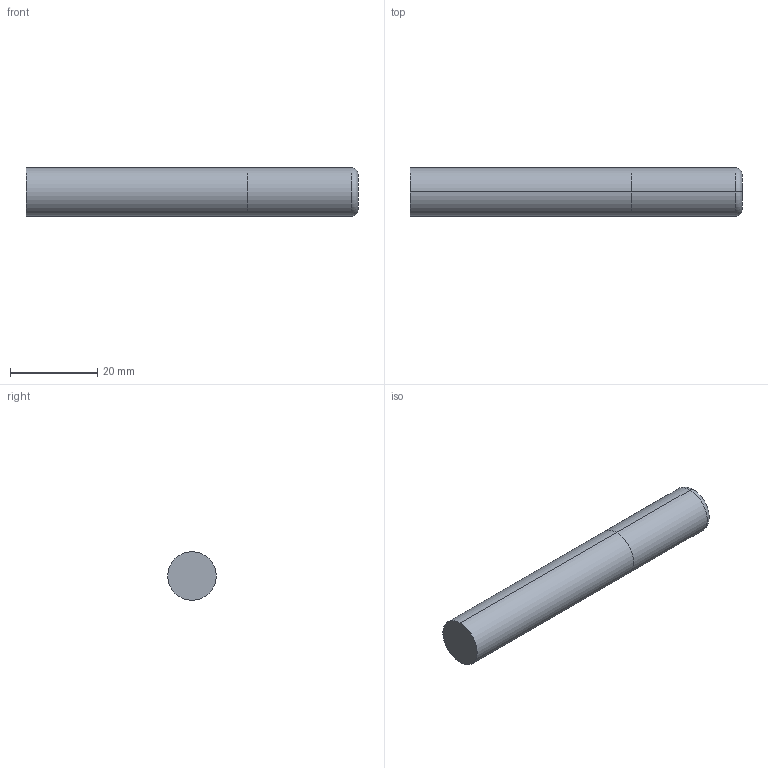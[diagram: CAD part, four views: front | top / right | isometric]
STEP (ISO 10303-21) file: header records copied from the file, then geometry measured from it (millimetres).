
FILE_DESCRIPTION (( 'STEP AP214' ), '1' );
FILE_NAME ('SSI50437-060.STEP', '2025-05-23T15:17:13', ( '' ), ( '' ), 'SwSTEP 2.0', 'SolidWorks 2023', '' );
FILE_SCHEMA (( 'AUTOMOTIVE_DESIGN' ));
Length unit declared in the file: inch
Products named in the file (3): SSI5 Imperial SHANK ONLY_SSI50437-060; SSI5 Imperial LOC ONLY_SSI50437-060; SSI50437-060
Assembly tree (2 placements, depth 2):
  SSI50437-060
    SSI5 Imperial LOC ONLY_SSI50437-060
    SSI5 Imperial SHANK ONLY_SSI50437-060
Bounding box: 76.2 x 11.11 x 11.11 mm (x, y, z)
Volume: 7374.1 mm3; surface area: 3024.3 mm2
Topology: 2 solids, 2 shells, 10 faces, 16 edges, 10 vertices
Faces by surface type: cylinder 4, plane 4, torus 2
Entity records: 412 total; most frequent: DIRECTION 58, CARTESIAN_POINT 41, ORIENTED_EDGE 32, AXIS2_PLACEMENT_3D 27, EDGE_CURVE 16, CIRCLE 12, LENGTH_MEASURE_WITH_UNIT 11, UNCERTAINTY_MEASURE_WITH_UNIT 11
